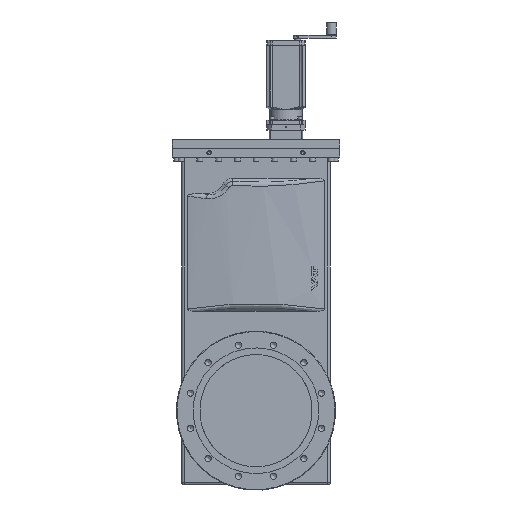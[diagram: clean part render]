
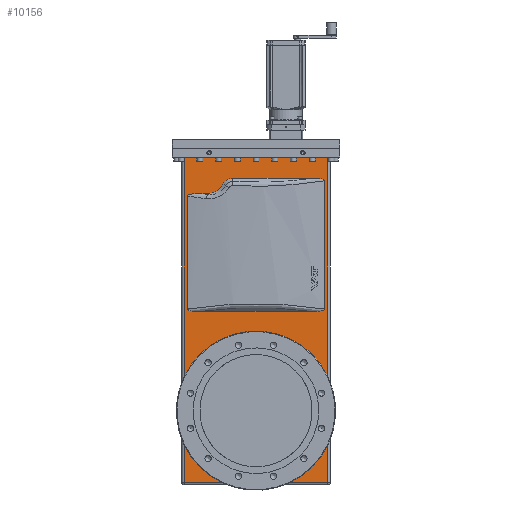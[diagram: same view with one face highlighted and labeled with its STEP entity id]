
A CAD part, front view. The second image highlights one B-rep face of the part: STEP entity #10156.
In plain terms, the highlighted planar face has unit normal (0, -1, 0) as drawn and (0, 0, 1) by its records, which use the part's own axes.
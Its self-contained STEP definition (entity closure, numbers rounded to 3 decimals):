
#10156=ADVANCED_FACE('',(#11483,#11484,#11485),#11081,.F.);
#11081=PLANE('',#24643);
#11483=FACE_BOUND('',#12570,.T.);
#11484=FACE_BOUND('',#12571,.T.);
#11485=FACE_BOUND('',#12572,.T.);
#12570=EDGE_LOOP('',(#16406));
#12571=EDGE_LOOP('',(#16407,#16408,#16409,#16410));
#12572=EDGE_LOOP('',(#16411,#16412,#16413,#16414,#16415,#16416,#16417,#16418,
#16419,#16420,#16421));
#14097=B_SPLINE_CURVE_WITH_KNOTS('',3,(#31358,#31359,#31360,#31361,#31362,
#31363,#31364,#31365,#31366,#31367,#31368,#31369),.UNSPECIFIED.,.F.,.F.,
(4,2,2,2,2,4),(0.,0.5,0.75,0.875,0.938,1.),.UNSPECIFIED.);
#14098=B_SPLINE_CURVE_WITH_KNOTS('',3,(#31370,#31371,#31372,#31373,#31374,
#31375,#31376,#31377,#31378,#31379,#31380,#31381),.UNSPECIFIED.,.F.,.F.,
(4,2,2,2,2,4),(0.,0.063,0.125,0.25,
0.5,1.),.UNSPECIFIED.);
#14099=B_SPLINE_CURVE_WITH_KNOTS('',3,(#31385,#31386,#31387,#31388,#31389,
#31390,#31391,#31392,#31393,#31394,#31395,#31396),.UNSPECIFIED.,.F.,.F.,
(4,2,2,2,2,4),(0.,0.5,0.75,0.875,
0.938,1.),.UNSPECIFIED.);
#14100=B_SPLINE_CURVE_WITH_KNOTS('',3,(#31397,#31398,#31399,#31400,#31401,
#31402,#31403,#31404,#31405,#31406,#31407,#31408),.UNSPECIFIED.,.F.,.F.,
(4,2,2,2,2,4),(0.,0.063,0.125,0.25,0.5,1.),.UNSPECIFIED.);
#14621=LINE('',#31265,#15364);
#14622=LINE('',#31269,#15365);
#14631=LINE('',#31345,#15374);
#14632=LINE('',#31348,#15375);
#14633=LINE('',#31350,#15376);
#14634=LINE('',#31352,#15377);
#14635=LINE('',#31356,#15378);
#14636=LINE('',#31383,#15379);
#14637=LINE('',#31410,#15380);
#15364=VECTOR('',#26499,1.);
#15365=VECTOR('',#26502,1.);
#15374=VECTOR('',#26527,1.);
#15375=VECTOR('',#26528,1.);
#15376=VECTOR('',#26529,1.);
#15377=VECTOR('',#26530,1.);
#15378=VECTOR('',#26533,1.);
#15379=VECTOR('',#26534,1.);
#15380=VECTOR('',#26535,1.);
#16406=ORIENTED_EDGE('',*,*,#21940,.T.);
#16407=ORIENTED_EDGE('',*,*,#21941,.T.);
#16408=ORIENTED_EDGE('',*,*,#21942,.T.);
#16409=ORIENTED_EDGE('',*,*,#21943,.T.);
#16410=ORIENTED_EDGE('',*,*,#21944,.T.);
#16411=ORIENTED_EDGE('',*,*,#21945,.F.);
#16412=ORIENTED_EDGE('',*,*,#21946,.T.);
#16413=ORIENTED_EDGE('',*,*,#21947,.T.);
#16414=ORIENTED_EDGE('',*,*,#21917,.T.);
#16415=ORIENTED_EDGE('',*,*,#21948,.T.);
#16416=ORIENTED_EDGE('',*,*,#21949,.F.);
#16417=ORIENTED_EDGE('',*,*,#21950,.T.);
#16418=ORIENTED_EDGE('',*,*,#21915,.F.);
#16419=ORIENTED_EDGE('',*,*,#21951,.T.);
#16420=ORIENTED_EDGE('',*,*,#21952,.F.);
#16421=ORIENTED_EDGE('',*,*,#21953,.F.);
#20289=VERTEX_POINT('',#31264);
#20290=VERTEX_POINT('',#31266);
#20291=VERTEX_POINT('',#31268);
#20292=VERTEX_POINT('',#31270);
#20314=VERTEX_POINT('',#31344);
#20315=VERTEX_POINT('',#31346);
#20316=VERTEX_POINT('',#31347);
#20317=VERTEX_POINT('',#31349);
#20318=VERTEX_POINT('',#31351);
#20319=VERTEX_POINT('',#31354);
#20320=VERTEX_POINT('',#31355);
#20321=VERTEX_POINT('',#31357);
#20322=VERTEX_POINT('',#31382);
#20323=VERTEX_POINT('',#31384);
#20324=VERTEX_POINT('',#31409);
#20325=VERTEX_POINT('',#31411);
#21915=EDGE_CURVE('',#20289,#20290,#14621,.T.);
#21917=EDGE_CURVE('',#20292,#20291,#14622,.T.);
#21940=EDGE_CURVE('',#20314,#20314,#23853,.T.);
#21941=EDGE_CURVE('',#20315,#20316,#14631,.T.);
#21942=EDGE_CURVE('',#20316,#20317,#14632,.T.);
#21943=EDGE_CURVE('',#20317,#20318,#14633,.T.);
#21944=EDGE_CURVE('',#20318,#20315,#14634,.T.);
#21945=EDGE_CURVE('',#20319,#20320,#23854,.T.);
#21946=EDGE_CURVE('',#20319,#20321,#14635,.T.);
#21947=EDGE_CURVE('',#20321,#20292,#14097,.T.);
#21948=EDGE_CURVE('',#20291,#20322,#14098,.T.);
#21949=EDGE_CURVE('',#20323,#20322,#14636,.T.);
#21950=EDGE_CURVE('',#20323,#20290,#14099,.T.);
#21951=EDGE_CURVE('',#20289,#20324,#14100,.T.);
#21952=EDGE_CURVE('',#20325,#20324,#14637,.T.);
#21953=EDGE_CURVE('',#20320,#20325,#23855,.T.);
#23853=CIRCLE('',#24640,173.075);
#23854=CIRCLE('',#24641,30.);
#23855=CIRCLE('',#24642,48.);
#24640=AXIS2_PLACEMENT_3D('',#31343,#26525,#26526);
#24641=AXIS2_PLACEMENT_3D('',#31353,#26531,#26532);
#24642=AXIS2_PLACEMENT_3D('',#31412,#26536,#26537);
#24643=AXIS2_PLACEMENT_3D('',#31413,#26538,#26539);
#26499=DIRECTION('',(0.,-1.,0.));
#26502=DIRECTION('',(0.,-1.,0.));
#26525=DIRECTION('',(0.,0.,-1.));
#26526=DIRECTION('',(-1.,0.,0.));
#26527=DIRECTION('',(-1.,0.,0.));
#26528=DIRECTION('',(0.,-1.,0.));
#26529=DIRECTION('',(1.,0.,0.));
#26530=DIRECTION('',(0.,1.,0.));
#26531=DIRECTION('',(0.,0.,1.));
#26532=DIRECTION('',(1.,0.,0.));
#26533=DIRECTION('',(1.,0.,0.));
#26534=DIRECTION('',(1.,0.,0.));
#26535=DIRECTION('',(-1.,0.,0.));
#26536=DIRECTION('',(0.,0.,-1.));
#26537=DIRECTION('',(1.,0.,0.));
#26538=DIRECTION('',(0.,0.,-1.));
#26539=DIRECTION('',(1.,0.,0.));
#31264=CARTESIAN_POINT('',(-183.,-126.909,28.25));
#31265=CARTESIAN_POINT('',(-183.,-80.,28.25));
#31266=CARTESIAN_POINT('',(-183.,-428.591,28.25));
#31268=CARTESIAN_POINT('',(183.,-428.591,28.25));
#31269=CARTESIAN_POINT('',(183.,-80.,28.25));
#31270=CARTESIAN_POINT('',(183.,-86.409,28.25));
#31343=CARTESIAN_POINT('',(0.,-700.,28.25));
#31344=CARTESIAN_POINT('',(-173.075,-700.,28.25));
#31345=CARTESIAN_POINT('',(198.2,-11.5,28.25));
#31346=CARTESIAN_POINT('',(191.95,-11.5,28.25));
#31347=CARTESIAN_POINT('',(-191.95,-11.5,28.25));
#31348=CARTESIAN_POINT('',(-191.95,-898.,28.25));
#31349=CARTESIAN_POINT('',(-191.95,-891.75,28.25));
#31350=CARTESIAN_POINT('',(198.2,-891.75,28.25));
#31351=CARTESIAN_POINT('',(191.95,-891.75,28.25));
#31352=CARTESIAN_POINT('',(191.95,-898.,28.25));
#31353=CARTESIAN_POINT('',(-61.806,-110.,28.25));
#31354=CARTESIAN_POINT('',(-61.806,-80.,28.25));
#31355=CARTESIAN_POINT('',(-88.111,-95.577,28.25));
#31356=CARTESIAN_POINT('',(0.,-80.,28.25));
#31357=CARTESIAN_POINT('',(152.687,-80.,28.25));
#31358=CARTESIAN_POINT('',(152.687,-80.,28.25));
#31359=CARTESIAN_POINT('',(158.075,-80.,28.25));
#31360=CARTESIAN_POINT('',(163.454,-80.115,28.25));
#31361=CARTESIAN_POINT('',(171.476,-80.915,28.25));
#31362=CARTESIAN_POINT('',(174.156,-81.273,28.25));
#31363=CARTESIAN_POINT('',(178.096,-82.3,28.25));
#31364=CARTESIAN_POINT('',(179.399,-82.718,28.25));
#31365=CARTESIAN_POINT('',(181.186,-83.685,28.25));
#31366=CARTESIAN_POINT('',(181.764,-84.072,28.25));
#31367=CARTESIAN_POINT('',(182.682,-85.076,28.25));
#31368=CARTESIAN_POINT('',(183.,-85.72,28.25));
#31369=CARTESIAN_POINT('',(183.,-86.409,28.25));
#31370=CARTESIAN_POINT('',(183.,-428.591,28.25));
#31371=CARTESIAN_POINT('',(183.,-429.283,28.25));
#31372=CARTESIAN_POINT('',(182.678,-429.931,28.25));
#31373=CARTESIAN_POINT('',(181.75,-430.94,28.25));
#31374=CARTESIAN_POINT('',(181.173,-431.324,28.25));
#31375=CARTESIAN_POINT('',(179.381,-432.289,28.25));
#31376=CARTESIAN_POINT('',(178.086,-432.703,28.25));
#31377=CARTESIAN_POINT('',(174.149,-433.727,28.25));
#31378=CARTESIAN_POINT('',(171.487,-434.084,28.25));
#31379=CARTESIAN_POINT('',(163.471,-434.885,28.25));
#31380=CARTESIAN_POINT('',(158.075,-435.,28.25));
#31381=CARTESIAN_POINT('',(152.687,-435.,28.25));
#31382=CARTESIAN_POINT('',(152.687,-435.,28.25));
#31383=CARTESIAN_POINT('',(0.,-435.,28.25));
#31384=CARTESIAN_POINT('',(-152.687,-435.,28.25));
#31385=CARTESIAN_POINT('',(-152.687,-435.,28.25));
#31386=CARTESIAN_POINT('',(-158.075,-435.,28.25));
#31387=CARTESIAN_POINT('',(-163.454,-434.885,28.25));
#31388=CARTESIAN_POINT('',(-171.476,-434.085,28.25));
#31389=CARTESIAN_POINT('',(-174.156,-433.727,28.25));
#31390=CARTESIAN_POINT('',(-178.096,-432.7,28.25));
#31391=CARTESIAN_POINT('',(-179.399,-432.282,28.25));
#31392=CARTESIAN_POINT('',(-181.186,-431.315,28.25));
#31393=CARTESIAN_POINT('',(-181.764,-430.928,28.25));
#31394=CARTESIAN_POINT('',(-182.682,-429.924,28.25));
#31395=CARTESIAN_POINT('',(-183.,-429.28,28.25));
#31396=CARTESIAN_POINT('',(-183.,-428.591,28.25));
#31397=CARTESIAN_POINT('',(-183.,-126.909,28.25));
#31398=CARTESIAN_POINT('',(-183.,-126.217,28.25));
#31399=CARTESIAN_POINT('',(-182.678,-125.569,28.25));
#31400=CARTESIAN_POINT('',(-181.75,-124.56,28.25));
#31401=CARTESIAN_POINT('',(-181.173,-124.176,28.25));
#31402=CARTESIAN_POINT('',(-179.381,-123.211,28.25));
#31403=CARTESIAN_POINT('',(-178.086,-122.797,28.25));
#31404=CARTESIAN_POINT('',(-174.149,-121.773,28.25));
#31405=CARTESIAN_POINT('',(-171.487,-121.416,28.25));
#31406=CARTESIAN_POINT('',(-163.471,-120.615,28.25));
#31407=CARTESIAN_POINT('',(-158.075,-120.5,28.25));
#31408=CARTESIAN_POINT('',(-152.687,-120.5,28.25));
#31409=CARTESIAN_POINT('',(-152.687,-120.5,28.25));
#31410=CARTESIAN_POINT('',(198.2,-120.5,28.25));
#31411=CARTESIAN_POINT('',(-130.2,-120.5,28.25));
#31412=CARTESIAN_POINT('',(-130.2,-72.5,28.25));
#31413=CARTESIAN_POINT('',(198.2,-898.,28.25));
